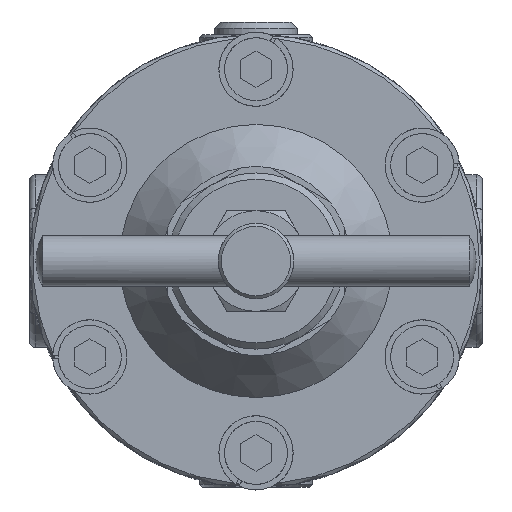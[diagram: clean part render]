
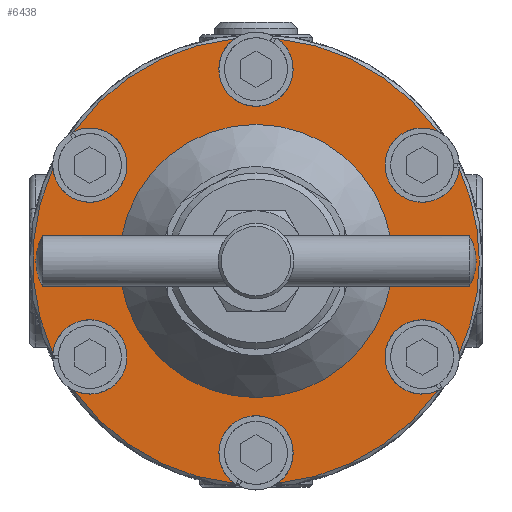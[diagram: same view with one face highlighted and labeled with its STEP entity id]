
A CAD part, front view. The second image highlights one B-rep face of the part: STEP entity #6438.
In plain terms, the highlighted planar face has unit normal (0, -1, 0).
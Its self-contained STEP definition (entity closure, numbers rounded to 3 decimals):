
#342=FACE_BOUND('',#1045,.T.);
#416=PLANE('',#6926);
#627=FACE_OUTER_BOUND('',#1044,.T.);
#1044=EDGE_LOOP('',(#4517,#4518,#4519,#4520,#4521,#4522,#4523,#4524,#4525,
#4526,#4527,#4528,#4529));
#1045=EDGE_LOOP('',(#4530));
#2420=CIRCLE('',#6881,35.5);
#2424=CIRCLE('',#6885,35.5);
#2427=CIRCLE('',#6888,35.5);
#2431=CIRCLE('',#6892,35.5);
#2435=CIRCLE('',#6896,35.5);
#2439=CIRCLE('',#6900,35.5);
#2443=CIRCLE('',#6904,35.5);
#2452=CIRCLE('',#6924,5.9);
#2454=CIRCLE('',#6927,5.9);
#2455=CIRCLE('',#6928,5.9);
#2456=CIRCLE('',#6929,5.9);
#2457=CIRCLE('',#6930,5.9);
#2458=CIRCLE('',#6931,5.9);
#2459=CIRCLE('',#6932,21.713);
#2804=VERTEX_POINT('',#9793);
#2808=VERTEX_POINT('',#9802);
#2809=VERTEX_POINT('',#9804);
#2812=VERTEX_POINT('',#9810);
#2814=VERTEX_POINT('',#9815);
#2815=VERTEX_POINT('',#9817);
#2818=VERTEX_POINT('',#9823);
#2819=VERTEX_POINT('',#9825);
#2822=VERTEX_POINT('',#9831);
#2823=VERTEX_POINT('',#9833);
#2826=VERTEX_POINT('',#9839);
#2827=VERTEX_POINT('',#9841);
#2830=VERTEX_POINT('',#9847);
#2845=VERTEX_POINT('',#9903);
#3439=EDGE_CURVE('',#2809,#2808,#2420,.T.);
#3443=EDGE_CURVE('',#2804,#2812,#2424,.T.);
#3446=EDGE_CURVE('',#2815,#2814,#2427,.T.);
#3450=EDGE_CURVE('',#2819,#2818,#2431,.T.);
#3454=EDGE_CURVE('',#2823,#2822,#2435,.T.);
#3458=EDGE_CURVE('',#2827,#2826,#2439,.T.);
#3462=EDGE_CURVE('',#2808,#2830,#2443,.T.);
#3485=EDGE_CURVE('',#2812,#2809,#2452,.T.);
#3487=EDGE_CURVE('',#2830,#2827,#2454,.T.);
#3488=EDGE_CURVE('',#2826,#2823,#2455,.T.);
#3489=EDGE_CURVE('',#2822,#2819,#2456,.T.);
#3490=EDGE_CURVE('',#2818,#2815,#2457,.T.);
#3491=EDGE_CURVE('',#2814,#2804,#2458,.T.);
#3492=EDGE_CURVE('',#2845,#2845,#2459,.T.);
#4517=ORIENTED_EDGE('',*,*,#3485,.T.);
#4518=ORIENTED_EDGE('',*,*,#3439,.T.);
#4519=ORIENTED_EDGE('',*,*,#3462,.T.);
#4520=ORIENTED_EDGE('',*,*,#3487,.T.);
#4521=ORIENTED_EDGE('',*,*,#3458,.T.);
#4522=ORIENTED_EDGE('',*,*,#3488,.T.);
#4523=ORIENTED_EDGE('',*,*,#3454,.T.);
#4524=ORIENTED_EDGE('',*,*,#3489,.T.);
#4525=ORIENTED_EDGE('',*,*,#3450,.T.);
#4526=ORIENTED_EDGE('',*,*,#3490,.T.);
#4527=ORIENTED_EDGE('',*,*,#3446,.T.);
#4528=ORIENTED_EDGE('',*,*,#3491,.T.);
#4529=ORIENTED_EDGE('',*,*,#3443,.T.);
#4530=ORIENTED_EDGE('',*,*,#3492,.T.);
#6438=ADVANCED_FACE('',(#627,#342),#416,.T.);
#6881=AXIS2_PLACEMENT_3D('',#9805,#7732,#7733);
#6885=AXIS2_PLACEMENT_3D('',#9812,#7740,#7741);
#6888=AXIS2_PLACEMENT_3D('',#9818,#7746,#7747);
#6892=AXIS2_PLACEMENT_3D('',#9826,#7754,#7755);
#6896=AXIS2_PLACEMENT_3D('',#9834,#7762,#7763);
#6900=AXIS2_PLACEMENT_3D('',#9842,#7770,#7771);
#6904=AXIS2_PLACEMENT_3D('',#9849,#7778,#7779);
#6924=AXIS2_PLACEMENT_3D('',#9895,#7830,#7831);
#6926=AXIS2_PLACEMENT_3D('',#9897,#7834,#7835);
#6927=AXIS2_PLACEMENT_3D('',#9898,#7836,#7837);
#6928=AXIS2_PLACEMENT_3D('',#9899,#7838,#7839);
#6929=AXIS2_PLACEMENT_3D('',#9900,#7840,#7841);
#6930=AXIS2_PLACEMENT_3D('',#9901,#7842,#7843);
#6931=AXIS2_PLACEMENT_3D('',#9902,#7844,#7845);
#6932=AXIS2_PLACEMENT_3D('',#9904,#7846,#7847);
#7732=DIRECTION('center_axis',(0.,-1.,0.));
#7733=DIRECTION('ref_axis',(0.91,0.,-0.415));
#7740=DIRECTION('center_axis',(0.,-1.,0.));
#7741=DIRECTION('ref_axis',(0.095,0.,-0.995));
#7746=DIRECTION('center_axis',(0.,-1.,0.));
#7747=DIRECTION('ref_axis',(-0.815,0.,-0.58));
#7754=DIRECTION('center_axis',(0.,-1.,0.));
#7755=DIRECTION('ref_axis',(-0.91,0.,0.415));
#7762=DIRECTION('center_axis',(0.,-1.,0.));
#7763=DIRECTION('ref_axis',(-0.095,0.,0.995));
#7770=DIRECTION('center_axis',(0.,-1.,0.));
#7771=DIRECTION('ref_axis',(0.815,0.,0.58));
#7778=DIRECTION('center_axis',(0.,-1.,0.));
#7779=DIRECTION('ref_axis',(0.91,0.,-0.415));
#7830=DIRECTION('center_axis',(0.,1.,0.));
#7831=DIRECTION('ref_axis',(0.424,0.,-0.906));
#7834=DIRECTION('center_axis',(0.,-1.,0.));
#7835=DIRECTION('ref_axis',(1.,0.,0.));
#7836=DIRECTION('center_axis',(0.,1.,0.));
#7837=DIRECTION('ref_axis',(0.996,0.,-0.085));
#7838=DIRECTION('center_axis',(0.,1.,0.));
#7839=DIRECTION('ref_axis',(0.572,0.,0.82));
#7840=DIRECTION('center_axis',(0.,1.,0.));
#7841=DIRECTION('ref_axis',(-0.424,0.,0.906));
#7842=DIRECTION('center_axis',(0.,1.,0.));
#7843=DIRECTION('ref_axis',(-0.996,0.,0.085));
#7844=DIRECTION('center_axis',(0.,1.,0.));
#7845=DIRECTION('ref_axis',(-0.572,0.,-0.82));
#7846=DIRECTION('center_axis',(0.,1.,0.));
#7847=DIRECTION('ref_axis',(-1.,0.,0.));
#9793=CARTESIAN_POINT('',(3.375,-35.555,-35.339));
#9802=CARTESIAN_POINT('',(35.5,-35.555,0.));
#9804=CARTESIAN_POINT('',(32.292,-35.555,-14.747));
#9805=CARTESIAN_POINT('Origin',(0.,-35.555,0.));
#9810=CARTESIAN_POINT('',(28.917,-35.555,-20.593));
#9812=CARTESIAN_POINT('Origin',(0.,-35.555,0.));
#9815=CARTESIAN_POINT('',(-3.375,-35.555,-35.339));
#9817=CARTESIAN_POINT('',(-28.917,-35.555,-20.593));
#9818=CARTESIAN_POINT('Origin',(0.,-35.555,0.));
#9823=CARTESIAN_POINT('',(-32.292,-35.555,-14.747));
#9825=CARTESIAN_POINT('',(-32.292,-35.555,14.747));
#9826=CARTESIAN_POINT('Origin',(0.,-35.555,0.));
#9831=CARTESIAN_POINT('',(-28.917,-35.555,20.593));
#9833=CARTESIAN_POINT('',(-3.375,-35.555,35.339));
#9834=CARTESIAN_POINT('Origin',(0.,-35.555,0.));
#9839=CARTESIAN_POINT('',(3.375,-35.555,35.339));
#9841=CARTESIAN_POINT('',(28.917,-35.555,20.593));
#9842=CARTESIAN_POINT('Origin',(0.,-35.555,0.));
#9847=CARTESIAN_POINT('',(32.292,-35.555,14.747));
#9849=CARTESIAN_POINT('Origin',(0.,-35.555,0.));
#9895=CARTESIAN_POINT('Origin',(26.414,-35.555,-15.25));
#9897=CARTESIAN_POINT('Origin',(-35.5,-35.555,0.));
#9898=CARTESIAN_POINT('Origin',(26.414,-35.555,15.25));
#9899=CARTESIAN_POINT('Origin',(0.,-35.555,30.5));
#9900=CARTESIAN_POINT('Origin',(-26.414,-35.555,15.25));
#9901=CARTESIAN_POINT('Origin',(-26.414,-35.555,-15.25));
#9902=CARTESIAN_POINT('Origin',(0.,-35.555,-30.5));
#9903=CARTESIAN_POINT('',(21.713,-35.555,0.));
#9904=CARTESIAN_POINT('Origin',(0.,-35.555,0.));
